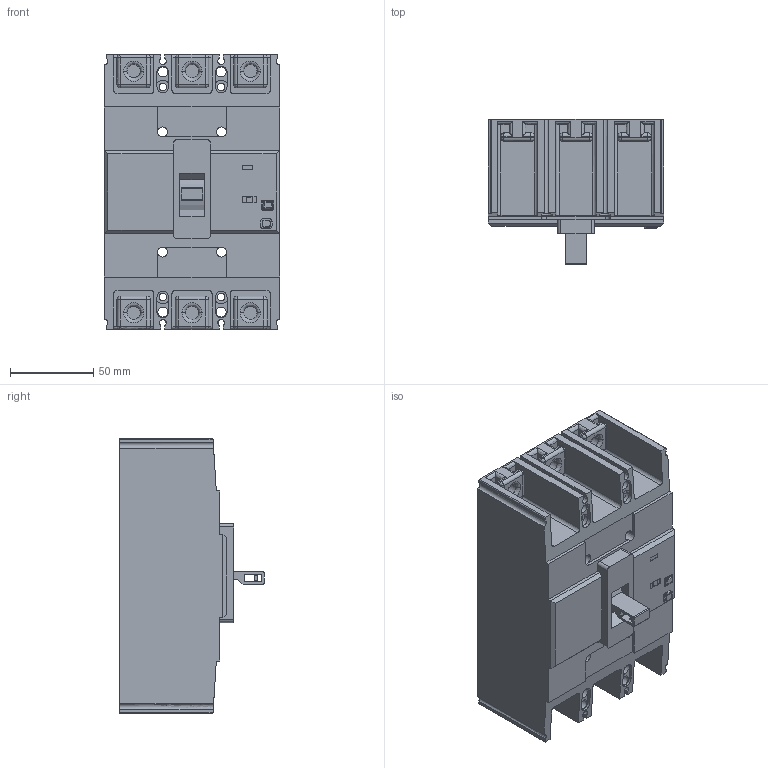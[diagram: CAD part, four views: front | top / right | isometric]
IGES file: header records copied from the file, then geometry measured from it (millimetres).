
Start section:  PTC IGES file: 9-metasol-elcb-250af-3p.igs
Global section: file name: 9-metasol-elcb-250af-3p.igs; native system: Pro/ENGINEER by Parametric Technology Corporation; preprocessor: 2010280; author: mgkimb; organization: Unknown; date: 20131029.143211; units: millimetre
Bounding box: 105 x 86.85 x 165 mm (x, y, z)
Surface area: 105900.3 mm2 (no closed solid volume)
Topology: 0 solids, 0 shells, 494 faces, 2448 edges, 2448 vertices
Faces by surface type: revolution 287, bspline 207
